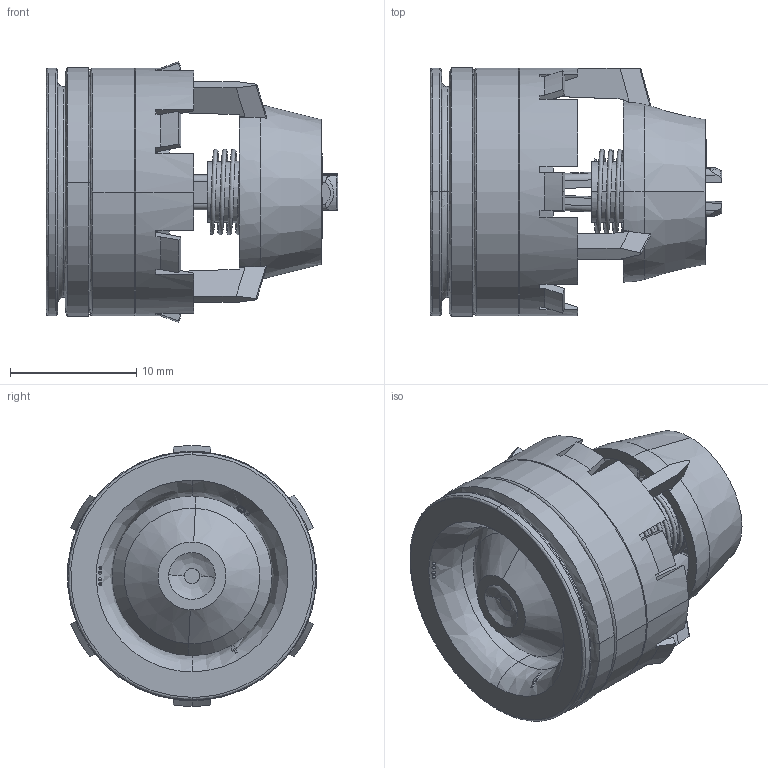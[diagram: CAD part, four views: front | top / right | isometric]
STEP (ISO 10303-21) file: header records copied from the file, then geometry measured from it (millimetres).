
FILE_DESCRIPTION (( 'STEP AP203' ), '1' );
FILE_NAME ('I0020-W149020620.STEP', '2020-04-08T14:33:09', ( '' ), ( '' ), 'SwSTEP 2.0', 'SolidWorks 2017', '' );
FILE_SCHEMA (( 'CONFIG_CONTROL_DESIGN' ));
Length unit declared in the file: metre
Products named in the file (7): PRT_FRVIR_0000007807; PRT_FRVIR_0000007802; I0020-W149020620; PRT_FRVIR_0000008062; Pièce29^ASM_FRVIR_0000002709; FUR_FRVIR_0000000992_16x2Spl(cartouche); PRT_FRVIR_0000007803_DéfautSpl(monté)
Assembly tree (6 placements, depth 2):
  I0020-W149020620
    PRT_FRVIR_0000008062
    PRT_FRVIR_0000007802
    PRT_FRVIR_0000007803_DéfautSpl(monté)
    FUR_FRVIR_0000000992_16x2Spl(cartouche)
    PRT_FRVIR_0000007807
    Pièce29^ASM_FRVIR_0000002709
Bounding box: 23.13 x 19.75 x 20.68 mm (x, y, z)
Volume: 2235.6 mm3; surface area: 4951.4 mm2
Topology: 6 solids, 6 shells, 462 faces, 1224 edges, 791 vertices
Faces by surface type: plane 214, bspline 132, cone 58, cylinder 56, torus 2
Entity records: 23053 total; most frequent: CARTESIAN_POINT 12129, ORIENTED_EDGE 2432, DIRECTION 1665, EDGE_CURVE 1216, VERTEX_POINT 791, AXIS2_PLACEMENT_3D 562, LINE 541, VECTOR 541
